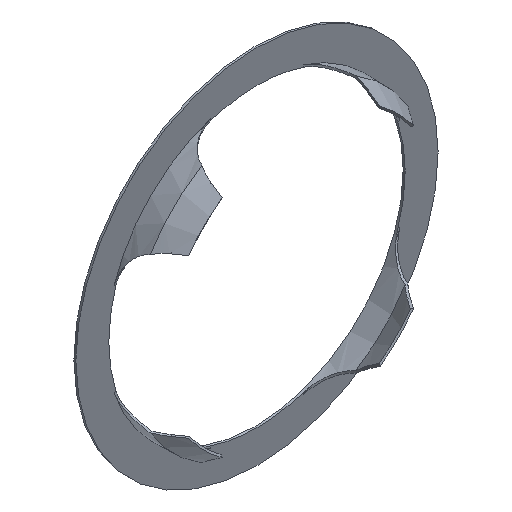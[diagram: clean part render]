
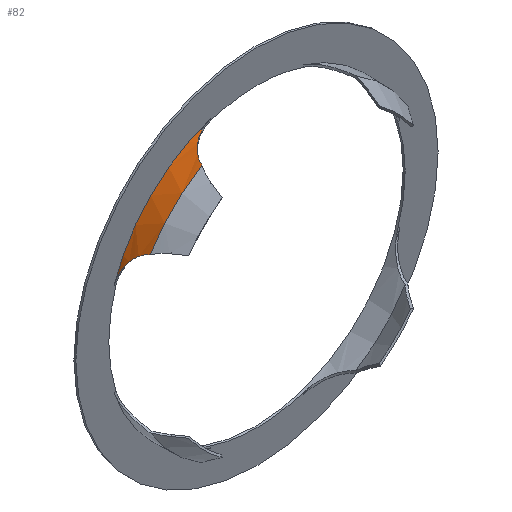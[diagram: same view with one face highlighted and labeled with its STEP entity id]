
A CAD part, isometric view. The second image highlights one B-rep face of the part: STEP entity #82.
In plain terms, the highlighted cylindrical face has radius 22.8 mm (diameter 45.6 mm), a partial arc.
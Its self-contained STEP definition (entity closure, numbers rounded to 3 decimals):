
#15 = ORIENTED_EDGE ( 'NONE', *, *, #1416, .F. ) ;
#30 = CARTESIAN_POINT ( 'NONE',  ( -9.005, -0.391, 20.953 ) ) ;
#31 = AXIS2_PLACEMENT_3D ( 'NONE', #189, #73, #1011 ) ;
#44 = CARTESIAN_POINT ( 'NONE',  ( -7., 0., 21.699 ) ) ;
#47 = CARTESIAN_POINT ( 'NONE',  ( -19.557, -3.35, 11.72 ) ) ;
#73 = DIRECTION ( 'NONE',  ( 0., 1., 0. ) ) ;
#82 = ADVANCED_FACE ( 'NONE', ( #981 ), #632, .T. ) ;
#145 = CARTESIAN_POINT ( 'NONE',  ( -20.951, -0.409, 8.997 ) ) ;
#178 = AXIS2_PLACEMENT_3D ( 'NONE', #666, #1117, #764 ) ;
#188 = CARTESIAN_POINT ( 'NONE',  ( -7., 0., 21.699 ) ) ;
#189 = CARTESIAN_POINT ( 'NONE',  ( 0., 0., 0. ) ) ;
#213 = B_SPLINE_CURVE_WITH_KNOTS ( 'NONE', 3,
 ( #44, #392, #1334, #278, #507, #30, #746, #874, #376, #963, #497, #1437, #972, #385 ),
 .UNSPECIFIED., .F., .F.,
 ( 4, 2, 2, 2, 2, 2, 4 ),
 ( 0.024, 0.025, 0.026, 0.027, 0.029, 0.03, 0.031 ),
 .UNSPECIFIED. ) ;
#278 = CARTESIAN_POINT ( 'NONE',  ( -8.023, -0.099, 21.343 ) ) ;
#280 = CARTESIAN_POINT ( 'NONE',  ( -21.526, -0.021, 7.52 ) ) ;
#376 = CARTESIAN_POINT ( 'NONE',  ( -10.662, -1.556, 20.157 ) ) ;
#385 = CARTESIAN_POINT ( 'NONE',  ( -11.72, -3.35, 19.557 ) ) ;
#392 = CARTESIAN_POINT ( 'NONE',  ( -7.26, 0., 21.615 ) ) ;
#399 = CARTESIAN_POINT ( 'NONE',  ( -19.819, -2.39, 11.273 ) ) ;
#467 = CARTESIAN_POINT ( 'NONE',  ( -21.615, 0., 7.259 ) ) ;
#494 = ORIENTED_EDGE ( 'NONE', *, *, #758, .F. ) ;
#497 = CARTESIAN_POINT ( 'NONE',  ( -11.277, -2.397, 19.816 ) ) ;
#505 = CARTESIAN_POINT ( 'NONE',  ( -21.699, 0., 7. ) ) ;
#507 = CARTESIAN_POINT ( 'NONE',  ( -8.275, -0.159, 21.247 ) ) ;
#565 = CARTESIAN_POINT ( 'NONE',  ( -19.557, -3.35, 11.72 ) ) ;
#576 = VERTEX_POINT ( 'NONE', #565 ) ;
#632 = CYLINDRICAL_SURFACE ( 'NONE', #1186, 22.8 ) ;
#666 = CARTESIAN_POINT ( 'NONE',  ( 0., -3.35, 0. ) ) ;
#685 = CARTESIAN_POINT ( 'NONE',  ( -21.699, 0., 7. ) ) ;
#702 = CARTESIAN_POINT ( 'NONE',  ( -21.247, -0.159, 8.275 ) ) ;
#741 = CARTESIAN_POINT ( 'NONE',  ( 0., 0., 0. ) ) ;
#746 = CARTESIAN_POINT ( 'NONE',  ( -9.458, -0.616, 20.751 ) ) ;
#758 = EDGE_CURVE ( 'NONE', #1398, #1150, #213, .T. ) ;
#764 = DIRECTION ( 'NONE',  ( 0., 0., 1. ) ) ;
#811 = ORIENTED_EDGE ( 'NONE', *, *, #1033, .T. ) ;
#846 = CARTESIAN_POINT ( 'NONE',  ( -20.352, -1.2, 10.288 ) ) ;
#864 = CARTESIAN_POINT ( 'NONE',  ( -21.342, -0.1, 8.027 ) ) ;
#874 = CARTESIAN_POINT ( 'NONE',  ( -10.295, -1.205, 20.348 ) ) ;
#963 = CARTESIAN_POINT ( 'NONE',  ( -11.133, -2.175, 19.898 ) ) ;
#971 = ORIENTED_EDGE ( 'NONE', *, *, #1192, .T. ) ;
#972 = CARTESIAN_POINT ( 'NONE',  ( -11.632, -3.099, 19.61 ) ) ;
#981 = FACE_OUTER_BOUND ( 'NONE', #1149, .T. ) ;
#983 = CARTESIAN_POINT ( 'NONE',  ( -19.675, -2.852, 11.523 ) ) ;
#1011 = DIRECTION ( 'NONE',  ( 0., 0., 1. ) ) ;
#1033 = EDGE_CURVE ( 'NONE', #1435, #576, #1040, .T. ) ;
#1040 = B_SPLINE_CURVE_WITH_KNOTS ( 'NONE', 3,
 ( #505, #467, #280, #864, #702, #1440, #145, #1096, #1165, #846, #1331, #1310, #399, #983, #1091, #47 ),
 .UNSPECIFIED., .F., .F.,
 ( 4, 2, 2, 2, 2, 2, 2, 4 ),
 ( 0.008, 0.009, 0.01, 0.01, 0.011, 0.013, 0.014, 0.014 ),
 .UNSPECIFIED. ) ;
#1091 = CARTESIAN_POINT ( 'NONE',  ( -19.61, -3.099, 11.632 ) ) ;
#1096 = CARTESIAN_POINT ( 'NONE',  ( -20.75, -0.635, 9.452 ) ) ;
#1117 = DIRECTION ( 'NONE',  ( 0., 1., 0. ) ) ;
#1134 = CARTESIAN_POINT ( 'NONE',  ( -11.72, -3.35, 19.557 ) ) ;
#1149 = EDGE_LOOP ( 'NONE', ( #15, #811, #971, #494 ) ) ;
#1150 = VERTEX_POINT ( 'NONE', #1134 ) ;
#1165 = CARTESIAN_POINT ( 'NONE',  ( -20.65, -0.764, 9.669 ) ) ;
#1186 = AXIS2_PLACEMENT_3D ( 'NONE', #741, #1223, #1454 ) ;
#1192 = EDGE_CURVE ( 'NONE', #576, #1150, #1488, .T. ) ;
#1223 = DIRECTION ( 'NONE',  ( 0., 1., 0. ) ) ;
#1310 = CARTESIAN_POINT ( 'NONE',  ( -19.899, -2.173, 11.132 ) ) ;
#1331 = CARTESIAN_POINT ( 'NONE',  ( -20.155, -1.56, 10.665 ) ) ;
#1334 = CARTESIAN_POINT ( 'NONE',  ( -7.517, -0.02, 21.527 ) ) ;
#1368 = CIRCLE ( 'NONE', #31, 22.8 ) ;
#1398 = VERTEX_POINT ( 'NONE', #188 ) ;
#1416 = EDGE_CURVE ( 'NONE', #1435, #1398, #1368, .T. ) ;
#1435 = VERTEX_POINT ( 'NONE', #685 ) ;
#1437 = CARTESIAN_POINT ( 'NONE',  ( -11.526, -2.858, 19.673 ) ) ;
#1440 = CARTESIAN_POINT ( 'NONE',  ( -21.052, -0.313, 8.759 ) ) ;
#1454 = DIRECTION ( 'NONE',  ( 0., 0., 1. ) ) ;
#1488 = CIRCLE ( 'NONE', #178, 22.8 ) ;
